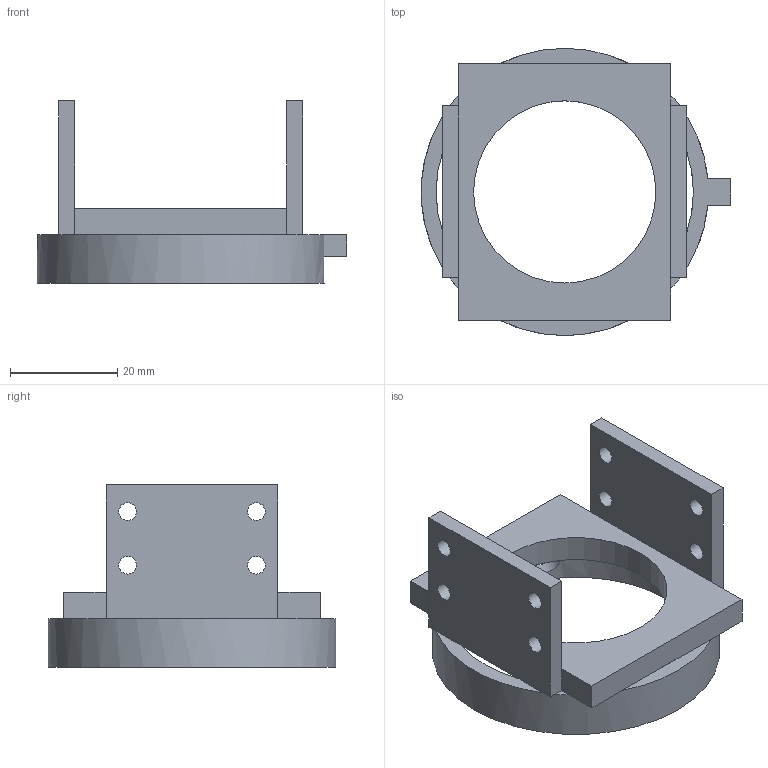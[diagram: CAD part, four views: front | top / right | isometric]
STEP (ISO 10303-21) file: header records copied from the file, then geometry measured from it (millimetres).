
FILE_DESCRIPTION(('Open CASCADE Model'),'2;1');
FILE_NAME('Open CASCADE Shape Model','2026-10-15T21:05:20',('Author'),( 'Open CASCADE'),'Open CASCADE STEP processor 7.9','Open CASCADE 7.9' ,'Unknown');
FILE_SCHEMA(('AUTOMOTIVE_DESIGN { 1 0 10303 214 1 1 1 1 }'));
Length unit declared in the file: millimetre
Products named in the file (1): Open CASCADE STEP translator 7.9 5
Bounding box: 57.8 x 53.6 x 34 mm (x, y, z)
Volume: 13560.1 mm3; surface area: 10138.4 mm2
Topology: 1 solids, 1 shells, 51 faces, 152 edges, 100 vertices
Faces by surface type: plane 39, cylinder 12
Full cylindrical faces by diameter (mm): 3.3 x8, 7 x1, 34 x1, 48 x1, 53.6 x1
Entity records: 4157 total; most frequent: CARTESIAN_POINT 1256, DIRECTION 499, ORIENTED_EDGE 304, PCURVE 304, DEFINITIONAL_REPRESENTATION 304, LINE 296, VECTOR 296, EDGE_CURVE 152
